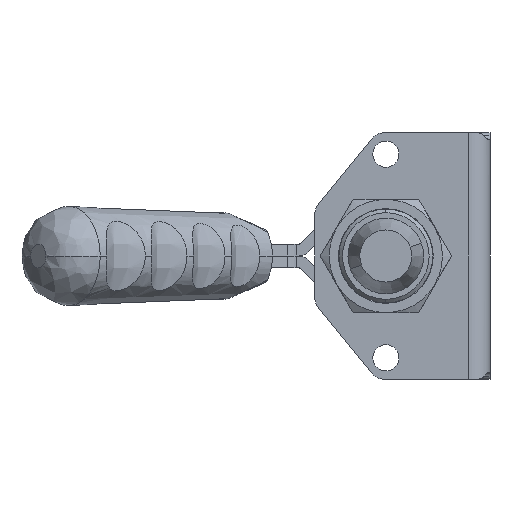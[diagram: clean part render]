
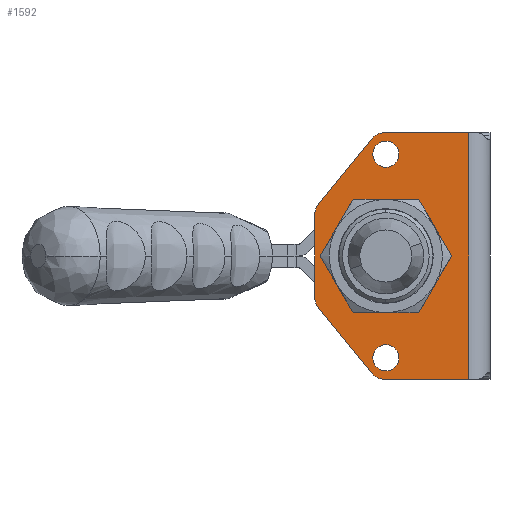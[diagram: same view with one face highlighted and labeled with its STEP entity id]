
A CAD part, left-side view. The second image highlights one B-rep face of the part: STEP entity #1592.
In plain terms, the highlighted planar face has unit normal (-1, 0, 0).
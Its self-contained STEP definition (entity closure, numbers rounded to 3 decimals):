
#246 = CARTESIAN_POINT ( 'NONE',  ( 16.93, 18.575, 23. ) ) ;
#393 = LINE ( 'NONE', #6745, #10092 ) ;
#512 = AXIS2_PLACEMENT_3D ( 'NONE', #5373, #13979, #11868 ) ;
#735 = CARTESIAN_POINT ( 'NONE',  ( 16.93, 30.003, 8.935 ) ) ;
#1030 = CARTESIAN_POINT ( 'NONE',  ( 16.93, 20.753, 21.5 ) ) ;
#1203 = EDGE_CURVE ( 'NONE', #3960, #12795, #10436, .T. ) ;
#1436 = DIRECTION ( 'NONE',  ( 1., 0., 0. ) ) ;
#1452 = AXIS2_PLACEMENT_3D ( 'NONE', #25896, #15336, #17319 ) ;
#1548 = LINE ( 'NONE', #18767, #5955 ) ;
#1559 = ORIENTED_EDGE ( 'NONE', *, *, #9870, .F. ) ;
#1592 = ADVANCED_FACE ( 'NONE', ( #9571, #11976, #20678, #3209 ), #20549, .T. ) ;
#1620 = VERTEX_POINT ( 'NONE', #20263 ) ;
#1971 = VERTEX_POINT ( 'NONE', #15551 ) ;
#2138 = AXIS2_PLACEMENT_3D ( 'NONE', #246, #13656, #2783 ) ;
#2172 = ORIENTED_EDGE ( 'NONE', *, *, #13289, .F. ) ;
#2269 = EDGE_CURVE ( 'NONE', #13034, #3156, #9131, .T. ) ;
#2389 = ORIENTED_EDGE ( 'NONE', *, *, #9277, .T. ) ;
#2398 = EDGE_CURVE ( 'NONE', #6327, #12698, #4594, .T. ) ;
#2558 = CARTESIAN_POINT ( 'NONE',  ( 16.93, 20.003, 26. ) ) ;
#2589 = DIRECTION ( 'NONE',  ( 0., 1., 0. ) ) ;
#2769 = CIRCLE ( 'NONE', #25280, 10.1 ) ;
#2783 = DIRECTION ( 'NONE',  ( 0., 1., 0. ) ) ;
#2805 = CARTESIAN_POINT ( 'NONE',  ( 16.93, -21.997, 26. ) ) ;
#3156 = VERTEX_POINT ( 'NONE', #5016 ) ;
#3209 = FACE_BOUND ( 'NONE', #19030, .T. ) ;
#3706 = DIRECTION ( 'NONE',  ( 1., 0., 0. ) ) ;
#3960 = VERTEX_POINT ( 'NONE', #1030 ) ;
#4141 = VECTOR ( 'NONE', #13120, 1000. ) ;
#4401 = LINE ( 'NONE', #2558, #15462 ) ;
#4594 = CIRCLE ( 'NONE', #11842, 3. ) ;
#4699 = AXIS2_PLACEMENT_3D ( 'NONE', #6111, #12469, #14442 ) ;
#4929 = VERTEX_POINT ( 'NONE', #18060 ) ;
#5016 = CARTESIAN_POINT ( 'NONE',  ( 16.93, 20.753, -21.5 ) ) ;
#5104 = VERTEX_POINT ( 'NONE', #20983 ) ;
#5319 = CARTESIAN_POINT ( 'NONE',  ( 16.93, 30.003, -8.935 ) ) ;
#5373 = CARTESIAN_POINT ( 'NONE',  ( 16.93, 18.003, 21.5 ) ) ;
#5649 = CARTESIAN_POINT ( 'NONE',  ( 16.93, 15.253, -21.5 ) ) ;
#5757 = EDGE_CURVE ( 'NONE', #4929, #1620, #4401, .T. ) ;
#5955 = VECTOR ( 'NONE', #27377, 1000. ) ;
#5958 = AXIS2_PLACEMENT_3D ( 'NONE', #14236, #7604, #16197 ) ;
#6111 = CARTESIAN_POINT ( 'NONE',  ( 16.93, 18.575, -23. ) ) ;
#6280 = CARTESIAN_POINT ( 'NONE',  ( 16.93, 18.003, -21.5 ) ) ;
#6327 = VERTEX_POINT ( 'NONE', #13388 ) ;
#6354 = EDGE_CURVE ( 'NONE', #12382, #14481, #393, .T. ) ;
#6368 = AXIS2_PLACEMENT_3D ( 'NONE', #6280, #24010, #2589 ) ;
#6415 = CARTESIAN_POINT ( 'NONE',  ( 16.93, 33.003, 8.935 ) ) ;
#6421 = EDGE_LOOP ( 'NONE', ( #17879, #15252 ) ) ;
#6543 = CIRCLE ( 'NONE', #8804, 10.1 ) ;
#6565 = ORIENTED_EDGE ( 'NONE', *, *, #19462, .F. ) ;
#6745 = CARTESIAN_POINT ( 'NONE',  ( 16.93, 0.5, 0. ) ) ;
#6755 = LINE ( 'NONE', #2805, #22812 ) ;
#6861 = ORIENTED_EDGE ( 'NONE', *, *, #5757, .F. ) ;
#7604 = DIRECTION ( 'NONE',  ( -1., 0., 0. ) ) ;
#7803 = CARTESIAN_POINT ( 'NONE',  ( 16.93, 33.003, 10. ) ) ;
#8437 = EDGE_CURVE ( 'NONE', #14702, #1971, #18238, .T. ) ;
#8804 = AXIS2_PLACEMENT_3D ( 'NONE', #10063, #3706, #9793 ) ;
#9131 = CIRCLE ( 'NONE', #1452, 2.75 ) ;
#9277 = EDGE_CURVE ( 'NONE', #18507, #19518, #6543, .T. ) ;
#9571 = FACE_OUTER_BOUND ( 'NONE', #13447, .T. ) ;
#9793 = DIRECTION ( 'NONE',  ( 0., 1., 0. ) ) ;
#9830 = EDGE_LOOP ( 'NONE', ( #21287, #2389 ) ) ;
#9870 = EDGE_CURVE ( 'NONE', #12698, #18643, #18502, .T. ) ;
#10063 = CARTESIAN_POINT ( 'NONE',  ( 16.93, 18.003, 0. ) ) ;
#10092 = VECTOR ( 'NONE', #14575, 1000. ) ;
#10335 = CARTESIAN_POINT ( 'NONE',  ( 16.93, 18.003, 0. ) ) ;
#10436 = CIRCLE ( 'NONE', #512, 2.75 ) ;
#10593 = CARTESIAN_POINT ( 'NONE',  ( 16.93, 33.003, -10. ) ) ;
#11676 = DIRECTION ( 'NONE',  ( 1., 0., 0. ) ) ;
#11704 = CARTESIAN_POINT ( 'NONE',  ( 16.93, 7.903, 0. ) ) ;
#11842 = AXIS2_PLACEMENT_3D ( 'NONE', #5319, #11676, #13644 ) ;
#11868 = DIRECTION ( 'NONE',  ( 0., 1., 0. ) ) ;
#11976 = FACE_BOUND ( 'NONE', #9830, .T. ) ;
#12035 = EDGE_CURVE ( 'NONE', #5104, #14481, #6755, .T. ) ;
#12382 = VERTEX_POINT ( 'NONE', #16621 ) ;
#12469 = DIRECTION ( 'NONE',  ( 1., 0., 0. ) ) ;
#12675 = ORIENTED_EDGE ( 'NONE', *, *, #1203, .T. ) ;
#12698 = VERTEX_POINT ( 'NONE', #18549 ) ;
#12795 = VERTEX_POINT ( 'NONE', #21201 ) ;
#13034 = VERTEX_POINT ( 'NONE', #5649 ) ;
#13120 = DIRECTION ( 'NONE',  ( 0., 0.631, 0.776 ) ) ;
#13192 = AXIS2_PLACEMENT_3D ( 'NONE', #16852, #18688, #14757 ) ;
#13289 = EDGE_CURVE ( 'NONE', #1620, #5104, #14797, .T. ) ;
#13388 = CARTESIAN_POINT ( 'NONE',  ( 16.93, 32.331, -10.827 ) ) ;
#13447 = EDGE_LOOP ( 'NONE', ( #1559, #18896, #15768, #15752, #6565, #14977, #21354, #2172, #6861, #22113 ) ) ;
#13644 = DIRECTION ( 'NONE',  ( 0., 1., 0. ) ) ;
#13656 = DIRECTION ( 'NONE',  ( 1., 0., 0. ) ) ;
#13696 = EDGE_CURVE ( 'NONE', #18643, #4929, #25126, .T. ) ;
#13979 = DIRECTION ( 'NONE',  ( 1., 0., 0. ) ) ;
#14236 = CARTESIAN_POINT ( 'NONE',  ( 16.93, 18.003, 0. ) ) ;
#14442 = DIRECTION ( 'NONE',  ( 0., 1., 0. ) ) ;
#14481 = VERTEX_POINT ( 'NONE', #15224 ) ;
#14575 = DIRECTION ( 'NONE',  ( 0., 0., 1. ) ) ;
#14702 = VERTEX_POINT ( 'NONE', #24498 ) ;
#14742 = ORIENTED_EDGE ( 'NONE', *, *, #20964, .T. ) ;
#14757 = DIRECTION ( 'NONE',  ( 0., 1., 0. ) ) ;
#14797 = CIRCLE ( 'NONE', #2138, 3. ) ;
#14977 = ORIENTED_EDGE ( 'NONE', *, *, #6354, .T. ) ;
#15224 = CARTESIAN_POINT ( 'NONE',  ( 16.93, 0.5, 26. ) ) ;
#15252 = ORIENTED_EDGE ( 'NONE', *, *, #2269, .T. ) ;
#15336 = DIRECTION ( 'NONE',  ( 1., 0., 0. ) ) ;
#15462 = VECTOR ( 'NONE', #23981, 1000. ) ;
#15551 = CARTESIAN_POINT ( 'NONE',  ( 16.93, 20.903, -24.892 ) ) ;
#15752 = ORIENTED_EDGE ( 'NONE', *, *, #8437, .F. ) ;
#15768 = ORIENTED_EDGE ( 'NONE', *, *, #19500, .F. ) ;
#15839 = DIRECTION ( 'NONE',  ( 1., 0., 0. ) ) ;
#16197 = DIRECTION ( 'NONE',  ( 0., -1., 0. ) ) ;
#16621 = CARTESIAN_POINT ( 'NONE',  ( 16.93, 0.5, -26. ) ) ;
#16852 = CARTESIAN_POINT ( 'NONE',  ( 16.93, 18.003, 21.5 ) ) ;
#17319 = DIRECTION ( 'NONE',  ( 0., 1., 0. ) ) ;
#17374 = VECTOR ( 'NONE', #21017, 1000. ) ;
#17879 = ORIENTED_EDGE ( 'NONE', *, *, #18658, .T. ) ;
#18060 = CARTESIAN_POINT ( 'NONE',  ( 16.93, 32.331, 10.827 ) ) ;
#18238 = CIRCLE ( 'NONE', #4699, 3. ) ;
#18502 = LINE ( 'NONE', #7803, #17374 ) ;
#18507 = VERTEX_POINT ( 'NONE', #11704 ) ;
#18522 = CIRCLE ( 'NONE', #6368, 2.75 ) ;
#18549 = CARTESIAN_POINT ( 'NONE',  ( 16.93, 33.003, -8.935 ) ) ;
#18643 = VERTEX_POINT ( 'NONE', #6415 ) ;
#18658 = EDGE_CURVE ( 'NONE', #3156, #13034, #18522, .T. ) ;
#18688 = DIRECTION ( 'NONE',  ( 1., 0., 0. ) ) ;
#18767 = CARTESIAN_POINT ( 'NONE',  ( 16.93, 20.003, -26. ) ) ;
#18896 = ORIENTED_EDGE ( 'NONE', *, *, #2398, .F. ) ;
#19029 = EDGE_CURVE ( 'NONE', #19518, #18507, #2769, .T. ) ;
#19030 = EDGE_LOOP ( 'NONE', ( #12675, #14742 ) ) ;
#19277 = AXIS2_PLACEMENT_3D ( 'NONE', #735, #15839, #26401 ) ;
#19317 = CARTESIAN_POINT ( 'NONE',  ( 16.93, 28.103, 0. ) ) ;
#19462 = EDGE_CURVE ( 'NONE', #12382, #14702, #1548, .T. ) ;
#19500 = EDGE_CURVE ( 'NONE', #1971, #6327, #23251, .T. ) ;
#19518 = VERTEX_POINT ( 'NONE', #19317 ) ;
#20263 = CARTESIAN_POINT ( 'NONE',  ( 16.93, 20.903, 24.892 ) ) ;
#20549 = PLANE ( 'NONE',  #5958 ) ;
#20678 = FACE_BOUND ( 'NONE', #6421, .T. ) ;
#20964 = EDGE_CURVE ( 'NONE', #12795, #3960, #25323, .T. ) ;
#20983 = CARTESIAN_POINT ( 'NONE',  ( 16.93, 18.575, 26. ) ) ;
#21017 = DIRECTION ( 'NONE',  ( 0., 0., 1. ) ) ;
#21164 = DIRECTION ( 'NONE',  ( 0., 1., 0. ) ) ;
#21201 = CARTESIAN_POINT ( 'NONE',  ( 16.93, 15.253, 21.5 ) ) ;
#21287 = ORIENTED_EDGE ( 'NONE', *, *, #19029, .T. ) ;
#21354 = ORIENTED_EDGE ( 'NONE', *, *, #12035, .F. ) ;
#22113 = ORIENTED_EDGE ( 'NONE', *, *, #13696, .F. ) ;
#22812 = VECTOR ( 'NONE', #23937, 1000. ) ;
#23251 = LINE ( 'NONE', #10593, #4141 ) ;
#23937 = DIRECTION ( 'NONE',  ( 0., -1., 0. ) ) ;
#23981 = DIRECTION ( 'NONE',  ( 0., -0.631, 0.776 ) ) ;
#24010 = DIRECTION ( 'NONE',  ( 1., 0., 0. ) ) ;
#24498 = CARTESIAN_POINT ( 'NONE',  ( 16.93, 18.575, -26. ) ) ;
#25126 = CIRCLE ( 'NONE', #19277, 3. ) ;
#25280 = AXIS2_PLACEMENT_3D ( 'NONE', #10335, #1436, #21164 ) ;
#25323 = CIRCLE ( 'NONE', #13192, 2.75 ) ;
#25896 = CARTESIAN_POINT ( 'NONE',  ( 16.93, 18.003, -21.5 ) ) ;
#26401 = DIRECTION ( 'NONE',  ( 0., 1., 0. ) ) ;
#27377 = DIRECTION ( 'NONE',  ( 0., 1., 0. ) ) ;
